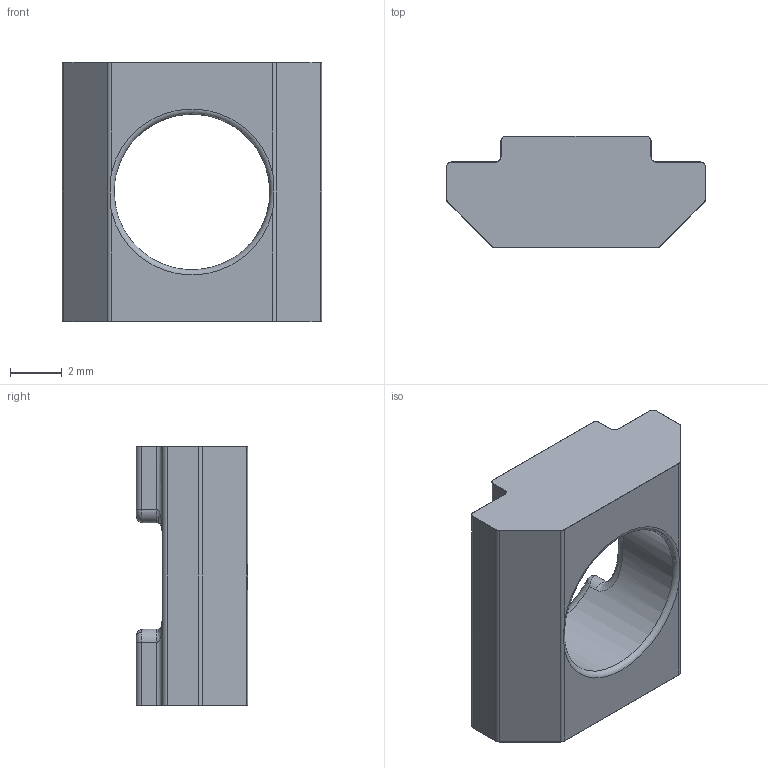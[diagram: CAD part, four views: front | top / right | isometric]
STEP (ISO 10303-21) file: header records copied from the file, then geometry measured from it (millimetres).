
FILE_DESCRIPTION(('FreeCAD Model'),'2;1');
FILE_NAME('Open CASCADE Shape Model','2021-05-04T11:24:37',('Author'),( ''),'Open CASCADE STEP processor 7.5','FreeCAD','Unknown');
FILE_SCHEMA(('AUTOMOTIVE_DESIGN { 1 0 10303 214 1 1 1 1 }'));
Length unit declared in the file: millimetre
Products named in the file (1): S206NS4SCH
Bounding box: 10 x 4.3 x 10 mm (x, y, z)
Volume: 231.3 mm3; surface area: 335.4 mm2
Topology: 1 solids, 1 shells, 88 faces, 212 edges, 120 vertices
Faces by surface type: cylinder 39, torus 27, plane 16, bspline 6
Full cylindrical faces by diameter (mm): 6 x1
Entity records: 6802 total; most frequent: CARTESIAN_POINT 2573, DIRECTION 825, LINE 427, VECTOR 427, ORIENTED_EDGE 416, PCURVE 416, DEFINITIONAL_REPRESENTATION 416, EDGE_CURVE 208
